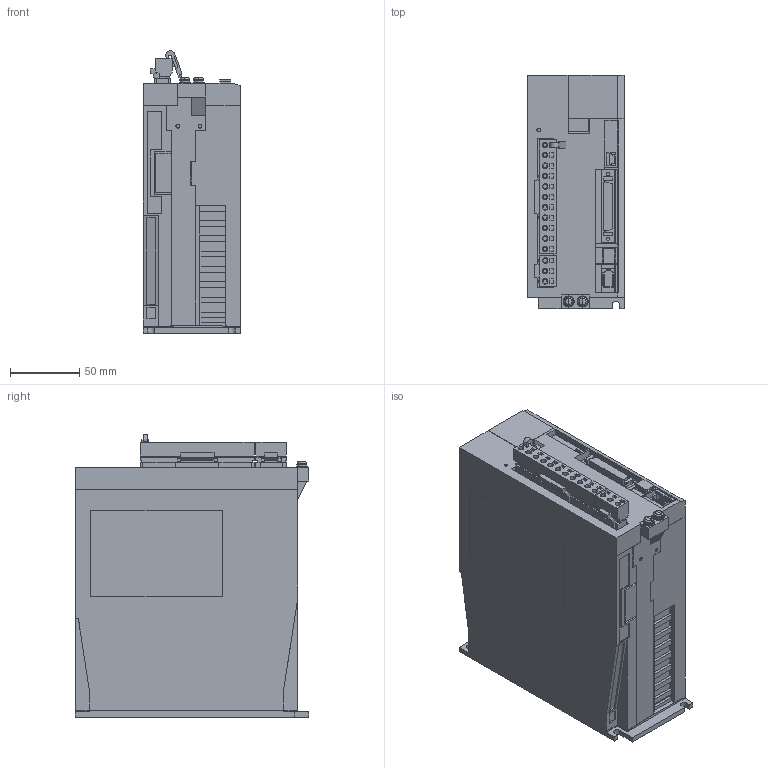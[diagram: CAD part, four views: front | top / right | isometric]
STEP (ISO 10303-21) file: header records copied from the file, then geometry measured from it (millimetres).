
FILE_DESCRIPTION((''),'2;1');
FILE_NAME('SGDXS-5R5A00A_ASM_ASM','2022-02-25T',('liubing_shen'),('Yaskawa Electric (Shenyang) Co.,Ltd'),'PRO/ENGINEER BY PARAMETRIC TECHNOLOGY CORPORATION, 2017170','PRO/ENGINEER BY PARAMETRIC TECHNOLOGY CORPORATION, 2017170','');
FILE_SCHEMA(('AUTOMOTIVE_DESIGN { 1 0 10303 214 1 1 1 1 }'));
Length unit declared in the file: millimetre
Products named in the file (10): SGDXS-5R5A00A_BASE_3; SGDXS_5R5A00A_COVER_4_1; SGDXS_5R5A00A_CONNECTOR_2_3_1; SGDXS_5R5A00A_CONNECTOR_1_2_1; SGDXS_5R5A00A_PIN_1_2_1; SGDXS_5R5A00A_CONNECTOR_3_1_1; SGDXS_5R5A00A_COVER2_1_1; SGDXS_5R5A00A_COVER3_AF0_3_1; SGDXS-5R5A00A_ASM_4_ASM; SGDXS-5R5A00A_ASM_ASM
Assembly tree (9 placements, depth 3):
  SGDXS-5R5A00A_ASM_ASM
    SGDXS-5R5A00A_ASM_4_ASM
      SGDXS-5R5A00A_BASE_3
      SGDXS_5R5A00A_COVER_4_1
      SGDXS_5R5A00A_CONNECTOR_2_3_1
      SGDXS_5R5A00A_CONNECTOR_1_2_1
      SGDXS_5R5A00A_PIN_1_2_1
      SGDXS_5R5A00A_CONNECTOR_3_1_1
      SGDXS_5R5A00A_COVER2_1_1
      SGDXS_5R5A00A_COVER3_AF0_3_1
Bounding box: 70.5 x 168 x 203.22 mm (x, y, z)
Volume: 1984354.6 mm3; surface area: 169372.5 mm2
Topology: 8 solids, 8 shells, 1718 faces, 4458 edges, 2944 vertices
Faces by surface type: plane 1530, cylinder 168, torus 12, cone 4, sphere 4
Entity records: 66757 total; most frequent: CARTESIAN_POINT 9170, ORIENTED_EDGE 8908, DIRECTION 8331, EDGE_CURVE 4454, VECTOR 4067, LINE 4067, VERTEX_POINT 2944, AXIS2_PLACEMENT_3D 2132
